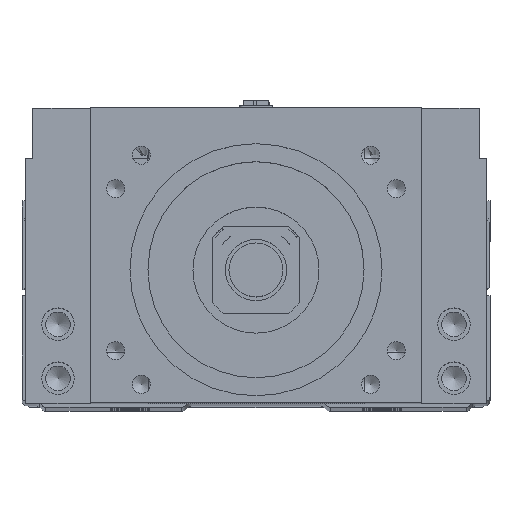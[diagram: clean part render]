
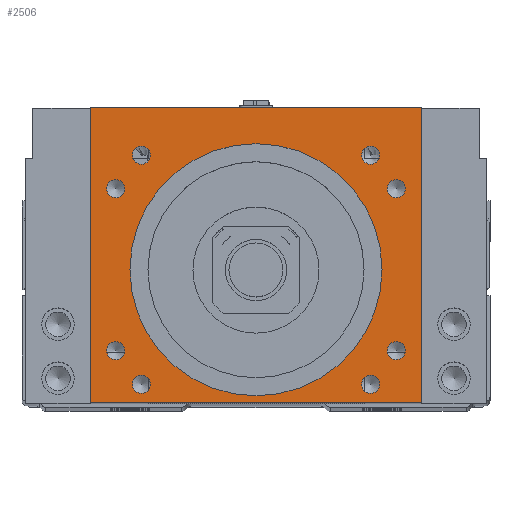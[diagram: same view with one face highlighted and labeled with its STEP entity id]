
A CAD part, top view. The second image highlights one B-rep face of the part: STEP entity #2506.
In plain terms, the highlighted planar face has unit normal (0, 0, 1).
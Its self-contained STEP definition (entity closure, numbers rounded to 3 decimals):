
#1746=FACE_BOUND('',#4536,.T.);
#1747=FACE_BOUND('',#4537,.T.);
#1748=FACE_BOUND('',#4538,.T.);
#1749=FACE_BOUND('',#4539,.T.);
#1750=FACE_BOUND('',#4540,.T.);
#1751=FACE_BOUND('',#4541,.T.);
#1752=FACE_BOUND('',#4542,.T.);
#1753=FACE_BOUND('',#4543,.T.);
#1754=FACE_BOUND('',#4544,.T.);
#1755=FACE_BOUND('',#4545,.T.);
#2506=ADVANCED_FACE('',(#1746,#1747,#1748,#1749,#1750,#1751,#1752,#1753,
#1754,#1755),#3236,.T.);
#3236=PLANE('',#15947);
#4536=EDGE_LOOP('',(#7266,#7267,#7268,#7269));
#4537=EDGE_LOOP('',(#7270));
#4538=EDGE_LOOP('',(#7271));
#4539=EDGE_LOOP('',(#7272));
#4540=EDGE_LOOP('',(#7273));
#4541=EDGE_LOOP('',(#7274));
#4542=EDGE_LOOP('',(#7275));
#4543=EDGE_LOOP('',(#7276));
#4544=EDGE_LOOP('',(#7277));
#4545=EDGE_LOOP('',(#7278));
#5544=CIRCLE('',#15937,35.015);
#5545=CIRCLE('',#15939,2.5);
#5546=CIRCLE('',#15940,2.5);
#5547=CIRCLE('',#15941,2.5);
#5548=CIRCLE('',#15942,2.5);
#5549=CIRCLE('',#15943,2.5);
#5550=CIRCLE('',#15944,2.5);
#5551=CIRCLE('',#15945,2.5);
#5552=CIRCLE('',#15946,2.5);
#7266=ORIENTED_EDGE('',*,*,#11778,.T.);
#7267=ORIENTED_EDGE('',*,*,#11766,.T.);
#7268=ORIENTED_EDGE('',*,*,#11773,.T.);
#7269=ORIENTED_EDGE('',*,*,#11783,.T.);
#7270=ORIENTED_EDGE('',*,*,#11791,.F.);
#7271=ORIENTED_EDGE('',*,*,#11792,.T.);
#7272=ORIENTED_EDGE('',*,*,#11793,.T.);
#7273=ORIENTED_EDGE('',*,*,#11794,.F.);
#7274=ORIENTED_EDGE('',*,*,#11790,.F.);
#7275=ORIENTED_EDGE('',*,*,#11795,.T.);
#7276=ORIENTED_EDGE('',*,*,#11796,.T.);
#7277=ORIENTED_EDGE('',*,*,#11797,.T.);
#7278=ORIENTED_EDGE('',*,*,#11798,.T.);
#10175=VERTEX_POINT('',#22363);
#10176=VERTEX_POINT('',#22365);
#10180=VERTEX_POINT('',#22376);
#10182=VERTEX_POINT('',#22387);
#10188=VERTEX_POINT('',#22411);
#10189=VERTEX_POINT('',#22414);
#10190=VERTEX_POINT('',#22416);
#10191=VERTEX_POINT('',#22418);
#10192=VERTEX_POINT('',#22420);
#10193=VERTEX_POINT('',#22422);
#10194=VERTEX_POINT('',#22424);
#10195=VERTEX_POINT('',#22426);
#10196=VERTEX_POINT('',#22428);
#11766=EDGE_CURVE('',#10176,#10175,#13405,.T.);
#11773=EDGE_CURVE('',#10175,#10180,#13410,.T.);
#11778=EDGE_CURVE('',#10182,#10176,#13415,.T.);
#11783=EDGE_CURVE('',#10180,#10182,#13420,.T.);
#11790=EDGE_CURVE('',#10188,#10188,#5544,.T.);
#11791=EDGE_CURVE('',#10189,#10189,#5545,.T.);
#11792=EDGE_CURVE('',#10190,#10190,#5546,.T.);
#11793=EDGE_CURVE('',#10191,#10191,#5547,.T.);
#11794=EDGE_CURVE('',#10192,#10192,#5548,.T.);
#11795=EDGE_CURVE('',#10193,#10193,#5549,.T.);
#11796=EDGE_CURVE('',#10194,#10194,#5550,.T.);
#11797=EDGE_CURVE('',#10195,#10195,#5551,.T.);
#11798=EDGE_CURVE('',#10196,#10196,#5552,.T.);
#13405=LINE('',#22364,#14610);
#13410=LINE('',#22378,#14615);
#13415=LINE('',#22386,#14620);
#13420=LINE('',#22395,#14625);
#14610=VECTOR('',#18253,1.);
#14615=VECTOR('',#18264,1.);
#14620=VECTOR('',#18275,1.);
#14625=VECTOR('',#18282,1.);
#15937=AXIS2_PLACEMENT_3D('',#22410,#18301,#18302);
#15939=AXIS2_PLACEMENT_3D('',#22413,#18305,#18306);
#15940=AXIS2_PLACEMENT_3D('',#22415,#18307,#18308);
#15941=AXIS2_PLACEMENT_3D('',#22417,#18309,#18310);
#15942=AXIS2_PLACEMENT_3D('',#22419,#18311,#18312);
#15943=AXIS2_PLACEMENT_3D('',#22421,#18313,#18314);
#15944=AXIS2_PLACEMENT_3D('',#22423,#18315,#18316);
#15945=AXIS2_PLACEMENT_3D('',#22425,#18317,#18318);
#15946=AXIS2_PLACEMENT_3D('',#22427,#18319,#18320);
#15947=AXIS2_PLACEMENT_3D('',#22429,#18321,#18322);
#18253=DIRECTION('',(-1.,0.,0.));
#18264=DIRECTION('',(0.,-1.,0.));
#18275=DIRECTION('',(0.,1.,0.));
#18282=DIRECTION('',(1.,0.,0.));
#18301=DIRECTION('',(0.,0.,1.));
#18302=DIRECTION('',(1.,0.,0.));
#18305=DIRECTION('',(0.,0.,1.));
#18306=DIRECTION('',(-1.,0.,0.));
#18307=DIRECTION('',(0.,0.,-1.));
#18308=DIRECTION('',(1.,0.,0.));
#18309=DIRECTION('',(0.,0.,-1.));
#18310=DIRECTION('',(1.,0.,0.));
#18311=DIRECTION('',(0.,0.,1.));
#18312=DIRECTION('',(-1.,0.,0.));
#18313=DIRECTION('',(0.,0.,-1.));
#18314=DIRECTION('',(1.,0.,0.));
#18315=DIRECTION('',(0.,0.,-1.));
#18316=DIRECTION('',(1.,0.,0.));
#18317=DIRECTION('',(0.,0.,-1.));
#18318=DIRECTION('',(1.,0.,0.));
#18319=DIRECTION('',(0.,0.,-1.));
#18320=DIRECTION('',(1.,0.,0.));
#18321=DIRECTION('',(0.,0.,1.));
#18322=DIRECTION('',(-1.,0.,0.));
#22363=CARTESIAN_POINT('',(-46.,83.,50.));
#22364=CARTESIAN_POINT('',(0.,83.,50.));
#22365=CARTESIAN_POINT('',(46.,83.,50.));
#22376=CARTESIAN_POINT('',(-46.,1.,50.));
#22378=CARTESIAN_POINT('',(-46.,38.,50.));
#22386=CARTESIAN_POINT('',(46.,38.,50.));
#22387=CARTESIAN_POINT('',(46.,1.,50.));
#22395=CARTESIAN_POINT('',(0.,1.,50.));
#22410=CARTESIAN_POINT('',(0.,38.,50.));
#22411=CARTESIAN_POINT('',(35.015,38.,50.));
#22413=CARTESIAN_POINT('',(-38.971,15.5,50.));
#22414=CARTESIAN_POINT('',(-41.471,15.5,50.));
#22415=CARTESIAN_POINT('',(38.971,60.5,50.));
#22416=CARTESIAN_POINT('',(41.471,60.5,50.));
#22417=CARTESIAN_POINT('',(38.971,15.5,50.));
#22418=CARTESIAN_POINT('',(41.471,15.5,50.));
#22419=CARTESIAN_POINT('',(-38.971,60.5,50.));
#22420=CARTESIAN_POINT('',(-41.471,60.5,50.));
#22421=CARTESIAN_POINT('',(-31.82,69.82,50.));
#22422=CARTESIAN_POINT('',(-29.32,69.82,50.));
#22423=CARTESIAN_POINT('',(-31.82,6.18,50.));
#22424=CARTESIAN_POINT('',(-29.32,6.18,50.));
#22425=CARTESIAN_POINT('',(31.82,6.18,50.));
#22426=CARTESIAN_POINT('',(34.32,6.18,50.));
#22427=CARTESIAN_POINT('',(31.82,69.82,50.));
#22428=CARTESIAN_POINT('',(34.32,69.82,50.));
#22429=CARTESIAN_POINT('',(0.,38.,50.));
